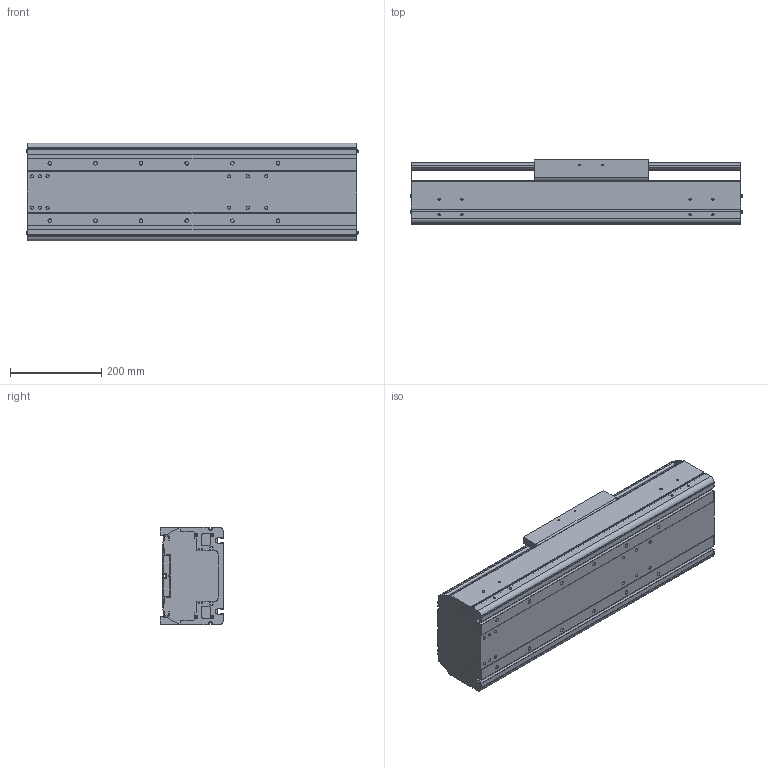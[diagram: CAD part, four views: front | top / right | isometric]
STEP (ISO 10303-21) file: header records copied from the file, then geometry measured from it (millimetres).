
FILE_DESCRIPTION((''),'2;1');
FILE_NAME('BE60J-ST-M_B-20_IGS_PRT','2017-06-18T',(' '),(''),'PRO/ENGINEER BY PARAMETRIC TECHNOLOGY CORPORATION, 2015030','PRO/ENGINEER BY PARAMETRIC TECHNOLOGY CORPORATION, 2015030','');
FILE_SCHEMA(('CONFIG_CONTROL_DESIGN'));
Length unit declared in the file: millimetre
Products named in the file (1): BE60J-ST-M_B-20_IGS_PRT
Bounding box: 727.4 x 140 x 214 mm (x, y, z)
Volume: 6212274.7 mm3; surface area: 1659807 mm2
Topology: 2 solids, 28 shells, 1055 faces, 2822 edges, 1816 vertices
Faces by surface type: plane 509, cylinder 446, cone 52, sphere 24, torus 24
Entity records: 33283 total; most frequent: CARTESIAN_POINT 6256, DIRECTION 5760, ORIENTED_EDGE 5452, EDGE_CURVE 2774, AXIS2_PLACEMENT_3D 2040, VERTEX_POINT 1816, VECTOR 1680, LINE 1680
